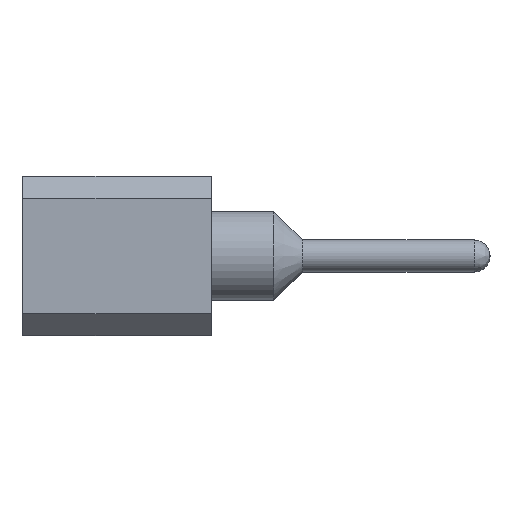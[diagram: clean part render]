
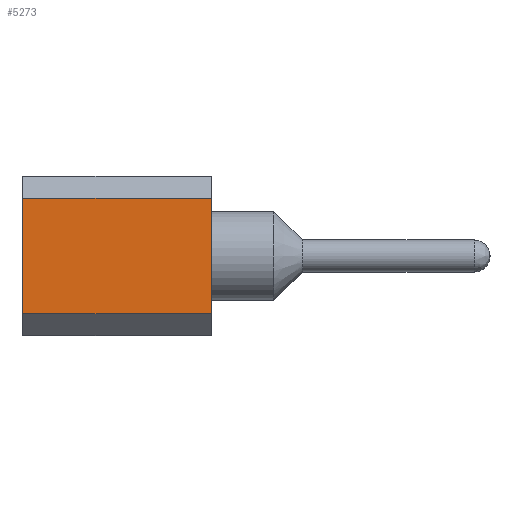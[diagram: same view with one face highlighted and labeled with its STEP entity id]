
A CAD part, left-side view. The second image highlights one B-rep face of the part: STEP entity #5273.
In plain terms, the highlighted planar face has unit normal (-1, 0, 0).
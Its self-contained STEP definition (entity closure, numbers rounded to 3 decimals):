
#249=PLANE('',#5874);
#652=FACE_OUTER_BOUND('',#998,.T.);
#998=EDGE_LOOP('',(#4432,#4433,#4434,#4435));
#1393=LINE('',#9176,#1874);
#1394=LINE('',#9179,#1875);
#1395=LINE('',#9181,#1876);
#1396=LINE('',#9182,#1877);
#1874=VECTOR('',#7219,10.);
#1875=VECTOR('',#7222,10.);
#1876=VECTOR('',#7223,10.);
#1877=VECTOR('',#7224,10.);
#2644=VERTEX_POINT('',#9172);
#2645=VERTEX_POINT('',#9174);
#2646=VERTEX_POINT('',#9178);
#2647=VERTEX_POINT('',#9180);
#3309=EDGE_CURVE('',#2644,#2645,#1393,.T.);
#3310=EDGE_CURVE('',#2644,#2646,#1394,.T.);
#3311=EDGE_CURVE('',#2647,#2645,#1395,.T.);
#3312=EDGE_CURVE('',#2646,#2647,#1396,.T.);
#4432=ORIENTED_EDGE('',*,*,#3310,.F.);
#4433=ORIENTED_EDGE('',*,*,#3309,.T.);
#4434=ORIENTED_EDGE('',*,*,#3311,.F.);
#4435=ORIENTED_EDGE('',*,*,#3312,.F.);
#5273=ADVANCED_FACE('',(#652),#249,.T.);
#5874=AXIS2_PLACEMENT_3D('',#9177,#7220,#7221);
#7219=DIRECTION('',(0.,1.,0.));
#7220=DIRECTION('center_axis',(-1.,0.,0.));
#7221=DIRECTION('ref_axis',(0.,0.,1.));
#7222=DIRECTION('',(0.,0.,-1.));
#7223=DIRECTION('',(0.,0.,1.));
#7224=DIRECTION('',(0.,1.,0.));
#9172=CARTESIAN_POINT('',(-1.266,0.,0.916));
#9174=CARTESIAN_POINT('',(-1.266,3.,0.916));
#9176=CARTESIAN_POINT('',(-1.266,0.,0.916));
#9177=CARTESIAN_POINT('Origin',(-1.266,0.,-0.911));
#9178=CARTESIAN_POINT('',(-1.266,0.,-0.911));
#9179=CARTESIAN_POINT('',(-1.266,0.,0.002));
#9180=CARTESIAN_POINT('',(-1.266,3.,-0.911));
#9181=CARTESIAN_POINT('',(-1.266,3.,0.002));
#9182=CARTESIAN_POINT('',(-1.266,0.,-0.911));
